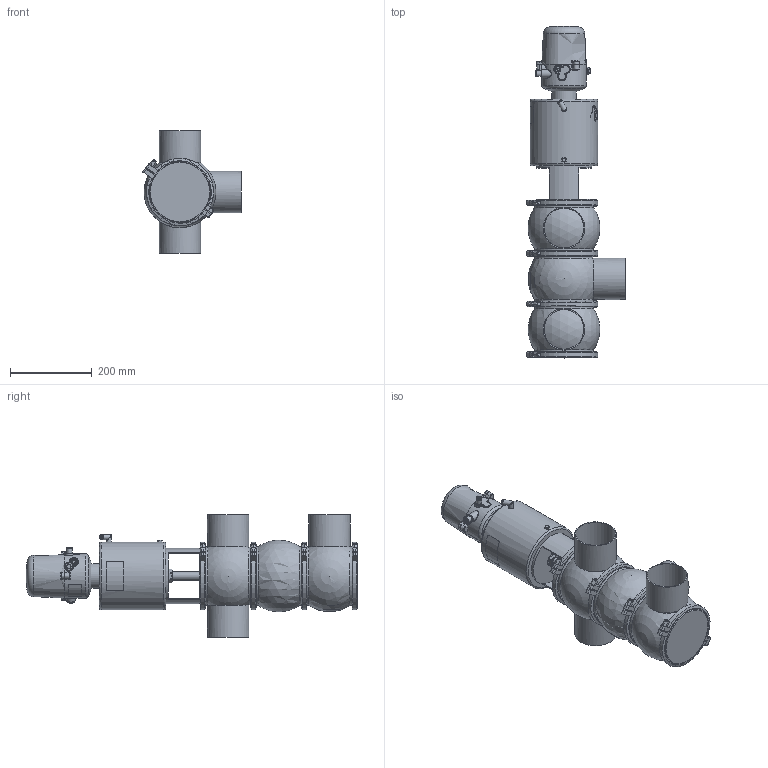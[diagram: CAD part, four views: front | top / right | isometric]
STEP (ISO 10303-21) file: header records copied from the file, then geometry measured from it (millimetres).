
FILE_DESCRIPTION (( 'STEP AP214' ), '1' );
FILE_NAME ('INNOVA L P W OD 4 T4 AS NC & C-TOP S_10.241.16.0052.STEP', '2024-08-06T13:06:40', ( '' ), ( '' ), 'SwSTEP 2.0', 'SolidWorks 2023', '' );
FILE_SCHEMA (( 'AUTOMOTIVE_DESIGN' ));
Length unit declared in the file: millimetre
Products named in the file (9): 10.240.15.0007_OD 4"; 10.426.15.0001_C-TOP S - 1 EV; 10.240.15.0017_Estàndard; 10.240.15.0006_OD 4"; 10.240.15.0001_DN 100; 10.241.15.0001_DIN 100; 10.240.15.0010_DN 100; INNOVA L P W OD 4 T4 AS NC & C-TOP S_10.241.16.0052; 10.240.15.0014_T4 AS P180
Assembly tree (12 placements, depth 2):
  INNOVA L P W OD 4 T4 AS NC & C-TOP S_10.241.16.0052
    10.240.15.0007_OD 4"
    10.240.15.0006_OD 4"  x2
    10.240.15.0010_DN 100
    10.240.15.0014_T4 AS P180
    10.240.15.0017_Estàndard
    10.426.15.0001_C-TOP S - 1 EV
    10.240.15.0001_DN 100  x4
    10.241.15.0001_DIN 100
Bounding box: 241.26 x 813.5 x 300 mm (x, y, z)
Volume: 13528627.8 mm3; surface area: 990109.9 mm2
Topology: 13 solids, 13 shells, 1312 faces, 3218 edges, 2134 vertices
Faces by surface type: plane 478, cylinder 405, cone 221, bspline 160, torus 36, sphere 12
Full cylindrical faces by diameter (mm): 0.371 x17, 0.512 x16, 0.658 x16, 0.795 x16, 0.94 x15, 1.098 x15, 1.241 x13, 1.382 x13, 1.523 x11, 1.669 x10, 2.201 x1, 4 x2, 5.5 x2, 6 x2, 6.15 x1, 8 x10, 8.5 x1, 10 x1, 10.5 x1, 11 x2, 12.5 x3, 13 x2, 13.5 x2, 16 x1, 17 x3, 20 x3, 20.5 x1, 22 x2, 31 x1, 34.5 x3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
Entity records: 58246 total; most frequent: CARTESIAN_POINT 27839, ORIENTED_EDGE 4538, DIRECTION 3689, EDGE_CURVE 2269, VERTEX_POINT 1614, EDGE_LOOP 1575, AXIS2_PLACEMENT_3D 1516, FACE_OUTER_BOUND 1338
